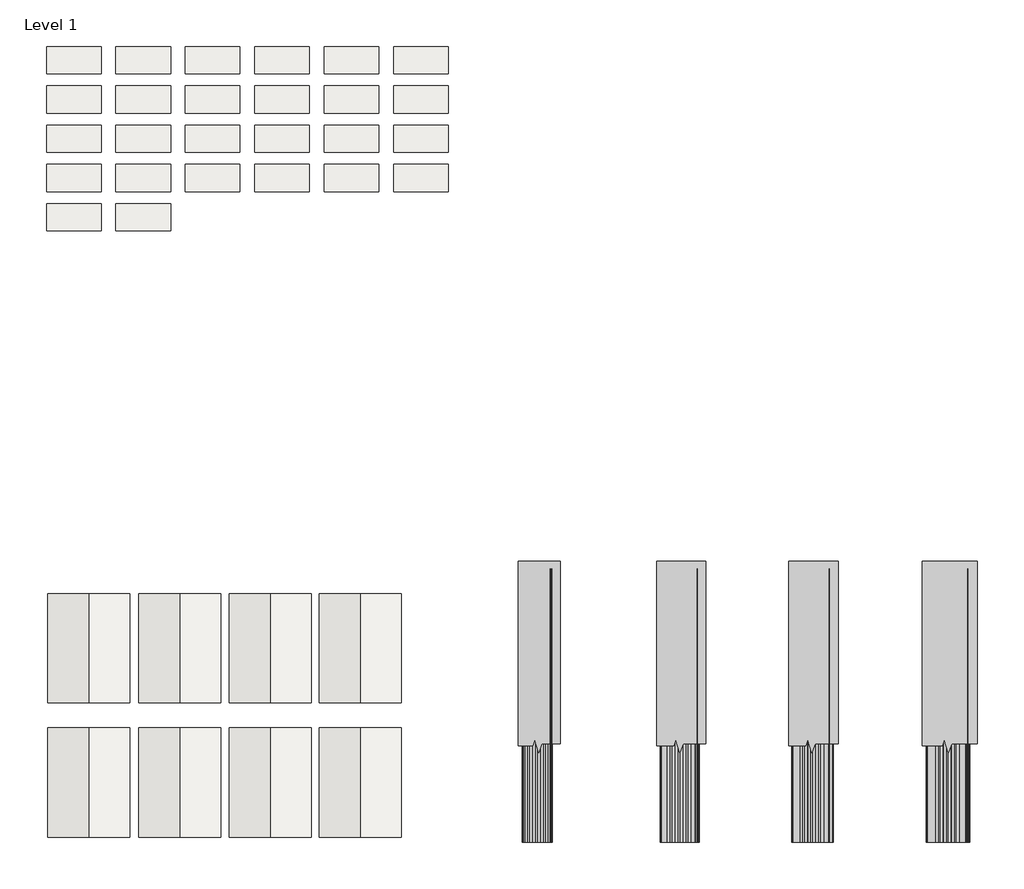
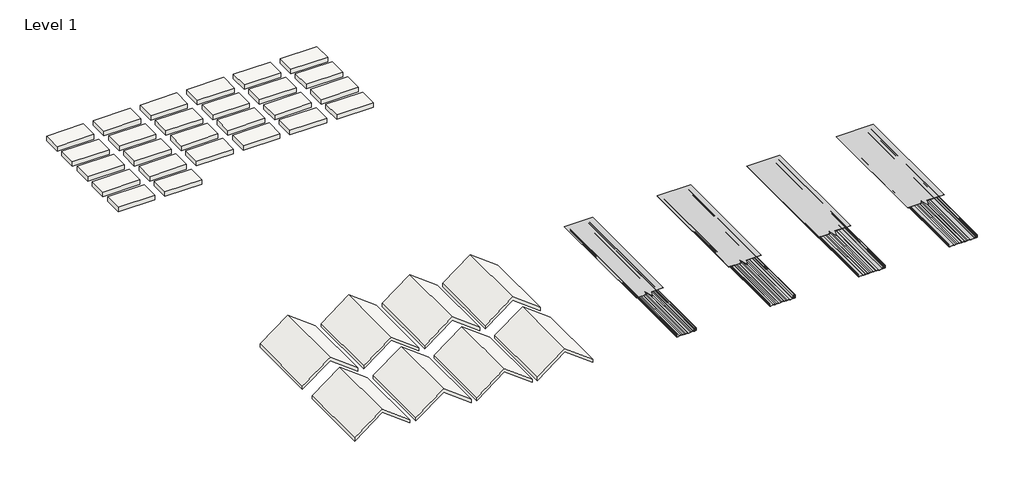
# One storey: 26 slabs, 8 proxies, 8 roofs.
"""IFC4 building model written with IfcOpenShell, lengths in millimetres."""

from ifc_helpers import new_model, si_unit, frame, origin, place, context, project, spatial, polyline, outline, extrude, transform, mapped, element, save
from components import proxy_332a0bac, proxy_bb0d2f3e, proxy_3b25000a, proxy_86f8ee29, section_mask_section_mask_8323a9d6, section_mask1_section_mask_918df037, section_mask2_section_mask_1289d720, section_mask3_section_mask_319a9473

model = new_model("IFC4")

# Units and contexts
model_context = context("Model", 3, world=origin())
ifc_project = project(units=[si_unit("LENGTHUNIT", "METRE", prefix="MILLI")], contexts=[model_context])

# Site, building, storey
site = spatial("IfcSite", under=ifc_project)
building = spatial("IfcBuilding", under=site)
storey = spatial("IfcBuildingStorey", under=building, Name="Level 1", Elevation=0.0)

# Proxies
placement = place(None, origin())
proxy_shape = proxy_332a0bac(model_context)
element("IfcBuildingElementProxy", 1, Name="Design_Span_hp_Roofing_Panel : 12\" Design Span hp - 22ga", ObjectType="Design_Span_hp_Roofing_Panel : 12\" Design Span hp - 22ga", at=placement, inside=storey, context=model_context, shape_type="MappedRepresentation", body=[
    mapped(proxy_shape, transform((524.6626704, 1669.9440449, 0.0), x_axis=(1.0, 0.0, 0.0), y_axis=(0.0, 1.0, 0.0), z_axis=(0.0, 0.0, 1.0))),
])
proxy_2_shape = proxy_bb0d2f3e(model_context)
element("IfcBuildingElementProxy", 2, Name="Design_Span_hp_Roofing_Panel : 16\" Design Span hp - 22ga", ObjectType="Design_Span_hp_Roofing_Panel : 16\" Design Span hp - 22ga", at=placement, inside=storey, context=model_context, shape_type="MappedRepresentation", body=[
    mapped(proxy_2_shape, transform((2115.0467811, 1669.9440449, 0.0), x_axis=(1.0, 0.0, 0.0), y_axis=(0.0, 1.0, 0.0), z_axis=(0.0, 0.0, 1.0))),
])
proxy_3_shape = proxy_3b25000a(model_context)
element("IfcBuildingElementProxy", 3, Name="Design_Span_hp_Roofing_Panel : 17\" Design Span hp - 22ga", ObjectType="Design_Span_hp_Roofing_Panel : 17\" Design Span hp - 22ga", at=placement, inside=storey, context=model_context, shape_type="MappedRepresentation", body=[
    mapped(proxy_3_shape, transform((3594.8418663, 1669.9440449, 0.0), x_axis=(1.0, 0.0, 0.0), y_axis=(0.0, 1.0, 0.0), z_axis=(0.0, 0.0, 1.0))),
])
proxy_4_shape = proxy_86f8ee29(model_context)
element("IfcBuildingElementProxy", 4, Name="Design_Span_hp_Roofing_Panel : 18\" Design Span hp - 22ga", ObjectType="Design_Span_hp_Roofing_Panel : 18\" Design Span hp - 22ga", at=placement, inside=storey, context=model_context, shape_type="MappedRepresentation", body=[
    mapped(proxy_4_shape, transform((5109.0259769, 1669.9440449, 0.0), x_axis=(1.0, 0.0, 0.0), y_axis=(0.0, 1.0, 0.0), z_axis=(0.0, 0.0, 1.0))),
])
section_mask_section_mask_shape = section_mask_section_mask_8323a9d6(model_context)
element("IfcBuildingElementProxy", 5, Name="Section Mask : Section Mask", ObjectType="Section Mask : Section Mask", at=placement, inside=storey, context=model_context, shape_type="MappedRepresentation", body=[
    mapped(section_mask_section_mask_shape, transform((0.0, 0.0, 0.0), x_axis=(1.0, 0.0, 0.0), y_axis=(0.0, 1.0, 0.0), z_axis=(0.0, 0.0, 1.0))),
])
section_mask1_section_mask_shape = section_mask1_section_mask_918df037(model_context)
element("IfcBuildingElementProxy", 6, Name="Section Mask1 : Section Mask", ObjectType="Section Mask1 : Section Mask", at=placement, inside=storey, context=model_context, shape_type="MappedRepresentation", body=[
    mapped(section_mask1_section_mask_shape, transform((1574.8, 0.0, 0.0), x_axis=(1.0, 0.0, 0.0), y_axis=(0.0, 1.0, 0.0), z_axis=(0.0, 0.0, 1.0))),
])
section_mask2_section_mask_shape = section_mask2_section_mask_1289d720(model_context)
element("IfcBuildingElementProxy", 7, Name="Section Mask2 : Section Mask", ObjectType="Section Mask2 : Section Mask", at=placement, inside=storey, context=model_context, shape_type="MappedRepresentation", body=[
    mapped(section_mask2_section_mask_shape, transform((3048.0, 0.0, 0.0), x_axis=(1.0, 0.0, 0.0), y_axis=(0.0, 1.0, 0.0), z_axis=(0.0, 0.0, 1.0))),
])
section_mask3_section_mask_shape = section_mask3_section_mask_319a9473(model_context)
element("IfcBuildingElementProxy", 8, Name="Section Mask3 : Section Mask", ObjectType="Section Mask3 : Section Mask", at=placement, inside=storey, context=model_context, shape_type="MappedRepresentation", body=[
    mapped(section_mask3_section_mask_shape, transform((4572.0, 0.0, 0.0), x_axis=(1.0, 0.0, 0.0), y_axis=(0.0, 1.0, 0.0), z_axis=(0.0, 0.0, 1.0))),
])

# Roofs
element("IfcRoof", 9, ObjectType="12\" Design Span wBatten Cap - 22ga", at=placement, inside=storey, context=model_context, shape_type="SweptSolid", body=[
    extrude(outline(polyline([(55.5625, -4018.8587959), (398.4625, -4476.0587959), (55.5625, -4933.2587959), (0.0, -4933.2587959), (342.9, -4476.0587959), (0.0, -4018.8587959), (55.5625, -4018.8587959)])), frame((0.0, -1322.9012025, 0.0), z_axis=(0.0, 1.0, 0.0), x_axis=(0.0, 0.0, 1.0)), (0.0, 0.0, 1.0), 1219.2),
])
element("IfcRoof", 10, ObjectType="16\" Design Span wBatten Cap - 22ga", at=placement, inside=storey, context=model_context, shape_type="SweptSolid", body=[
    extrude(outline(polyline([(55.5625, -3002.8587959), (398.4625, -3460.0587959), (55.5625, -3917.2587959), (0.0, -3917.2587959), (342.9, -3460.0587959), (0.0, -3002.8587959), (55.5625, -3002.8587959)])), frame((0.0, -1322.9012025, 0.0), z_axis=(0.0, 1.0, 0.0), x_axis=(0.0, 0.0, 1.0)), (0.0, 0.0, 1.0), 1219.2),
])
element("IfcRoof", 11, ObjectType="17\" Design Span wBatten Cap - 22ga", at=placement, inside=storey, context=model_context, shape_type="SweptSolid", body=[
    extrude(outline(polyline([(55.5625, -1993.2087959), (398.4625, -2450.4087959), (55.5625, -2907.6087959), (0.0, -2907.6087959), (342.9, -2450.4087959), (0.0, -1993.2087959), (55.5625, -1993.2087959)])), frame((0.0, -1322.9012025, 0.0), z_axis=(0.0, 1.0, 0.0), x_axis=(0.0, 0.0, 1.0)), (0.0, 0.0, 1.0), 1219.2),
])
element("IfcRoof", 12, ObjectType="18\" Design Span wBatten Cap - 22ga", at=placement, inside=storey, context=model_context, shape_type="SweptSolid", body=[
    extrude(outline(polyline([(55.5625, -989.9087959), (398.4625, -1447.1087959), (55.5625, -1904.3087959), (0.0, -1904.3087959), (342.9, -1447.1087959), (0.0, -989.9087959), (55.5625, -989.9087959)])), frame((0.0, -1322.9012025, 0.0), z_axis=(0.0, 1.0, 0.0), x_axis=(0.0, 0.0, 1.0)), (0.0, 0.0, 1.0), 1219.2),
])
element("IfcRoof", 13, ObjectType="12\" Design Span hp - 22ga", at=placement, inside=storey, context=model_context, shape_type="SweptSolid", body=[
    extrude(outline(polyline([(55.5625, -4018.8587959), (398.4625, -4476.0587959), (55.5625, -4933.2587959), (0.0, -4933.2587959), (342.9, -4476.0587959), (0.0, -4018.8587959), (55.5625, -4018.8587959)])), frame((0.0, 175.6987975, 0.0), z_axis=(0.0, 1.0, 0.0), x_axis=(0.0, 0.0, 1.0)), (0.0, 0.0, 1.0), 1219.2),
])
element("IfcRoof", 14, ObjectType="16\" Design Span hp - 22ga", at=placement, inside=storey, context=model_context, shape_type="SweptSolid", body=[
    extrude(outline(polyline([(55.5625, -3002.8587959), (398.4625, -3460.0587959), (55.5625, -3917.2587959), (0.0, -3917.2587959), (342.9, -3460.0587959), (0.0, -3002.8587959), (55.5625, -3002.8587959)])), frame((0.0, 175.6987975, 0.0), z_axis=(0.0, 1.0, 0.0), x_axis=(0.0, 0.0, 1.0)), (0.0, 0.0, 1.0), 1219.2),
])
element("IfcRoof", 15, ObjectType="17\" Design Span hp - 22ga", at=placement, inside=storey, context=model_context, shape_type="SweptSolid", body=[
    extrude(outline(polyline([(55.5625, -1993.2087959), (398.4625, -2450.4087959), (55.5625, -2907.6087959), (0.0, -2907.6087959), (342.9, -2450.4087959), (0.0, -1993.2087959), (55.5625, -1993.2087959)])), frame((0.0, 175.6987975, 0.0), z_axis=(0.0, 1.0, 0.0), x_axis=(0.0, 0.0, 1.0)), (0.0, 0.0, 1.0), 1219.2),
])
element("IfcRoof", 16, ObjectType="18\" Design Span hp - 22ga", at=placement, inside=storey, context=model_context, shape_type="SweptSolid", body=[
    extrude(outline(polyline([(55.5625, -989.9087959), (398.4625, -1447.1087959), (55.5625, -1904.3087959), (0.0, -1904.3087959), (342.9, -1447.1087959), (0.0, -989.9087959), (55.5625, -989.9087959)])), frame((0.0, 175.6987975, 0.0), z_axis=(0.0, 1.0, 0.0), x_axis=(0.0, 0.0, 1.0)), (0.0, 0.0, 1.0), 1219.2),
])

# Slabs
element("IfcSlab", 17, ObjectType="AEP Panel Sample Material", at=placement, inside=storey, context=model_context, shape_type="SweptSolid", body=[
    extrude(outline(polyline([(-4946.515334, 7196.0746889), (-4946.515334, 7500.8746889), (-4336.915334, 7500.8746889), (-4336.915334, 7196.0746889), (-4946.515334, 7196.0746889)])), frame((0.0, 0.0, -79.375), z_axis=(0.0, 0.0, 1.0), x_axis=(1.0, 0.0, 0.0)), (0.0, 0.0, 1.0), 79.375),
])
element("IfcSlab", 18, ObjectType="AEP Panel Sample Material", at=placement, inside=storey, context=model_context, shape_type="SweptSolid", body=[
    extrude(outline(polyline([(-4946.515334, 6757.9246889), (-4946.515334, 7062.7246889), (-4336.915334, 7062.7246889), (-4336.915334, 6757.9246889), (-4946.515334, 6757.9246889)])), frame((0.0, 0.0, -79.375), z_axis=(0.0, 0.0, 1.0), x_axis=(1.0, 0.0, 0.0)), (0.0, 0.0, 1.0), 79.375),
])
element("IfcSlab", 19, ObjectType="AEP Panel Sample Material", at=placement, inside=storey, context=model_context, shape_type="SweptSolid", body=[
    extrude(outline(polyline([(-4946.515334, 6319.7746889), (-4946.515334, 6624.5746889), (-4336.915334, 6624.5746889), (-4336.915334, 6319.7746889), (-4946.515334, 6319.7746889)])), frame((0.0, 0.0, -79.375), z_axis=(0.0, 0.0, 1.0), x_axis=(1.0, 0.0, 0.0)), (0.0, 0.0, 1.0), 79.375),
])
element("IfcSlab", 20, ObjectType="AEP Panel Sample Material", at=placement, inside=storey, context=model_context, shape_type="SweptSolid", body=[
    extrude(outline(polyline([(-4946.515334, 5881.6246889), (-4946.515334, 6186.4246889), (-4336.915334, 6186.4246889), (-4336.915334, 5881.6246889), (-4946.515334, 5881.6246889)])), frame((0.0, 0.0, -79.375), z_axis=(0.0, 0.0, 1.0), x_axis=(1.0, 0.0, 0.0)), (0.0, 0.0, 1.0), 79.375),
])
element("IfcSlab", 21, ObjectType="AEP Panel Sample Material", at=placement, inside=storey, context=model_context, shape_type="SweptSolid", body=[
    extrude(outline(polyline([(-4946.515334, 5443.4746889), (-4946.515334, 5748.2746889), (-4336.915334, 5748.2746889), (-4336.915334, 5443.4746889), (-4946.515334, 5443.4746889)])), frame((0.0, 0.0, -79.375), z_axis=(0.0, 0.0, 1.0), x_axis=(1.0, 0.0, 0.0)), (0.0, 0.0, 1.0), 79.375),
])
element("IfcSlab", 22, ObjectType="AEP Panel Sample Material", at=placement, inside=storey, context=model_context, shape_type="SweptSolid", body=[
    extrude(outline(polyline([(-4171.815334, 7196.0746889), (-4171.815334, 7500.8746889), (-3562.215334, 7500.8746889), (-3562.215334, 7196.0746889), (-4171.815334, 7196.0746889)])), frame((0.0, 0.0, -79.375), z_axis=(0.0, 0.0, 1.0), x_axis=(1.0, 0.0, 0.0)), (0.0, 0.0, 1.0), 79.375),
])
element("IfcSlab", 23, ObjectType="AEP Panel Sample Material", at=placement, inside=storey, context=model_context, shape_type="SweptSolid", body=[
    extrude(outline(polyline([(-4171.815334, 6757.9246889), (-4171.815334, 7062.7246889), (-3562.215334, 7062.7246889), (-3562.215334, 6757.9246889), (-4171.815334, 6757.9246889)])), frame((0.0, 0.0, -79.375), z_axis=(0.0, 0.0, 1.0), x_axis=(1.0, 0.0, 0.0)), (0.0, 0.0, 1.0), 79.375),
])
element("IfcSlab", 24, ObjectType="AEP Panel Sample Material", at=placement, inside=storey, context=model_context, shape_type="SweptSolid", body=[
    extrude(outline(polyline([(-4171.815334, 6319.7746889), (-4171.815334, 6624.5746889), (-3562.215334, 6624.5746889), (-3562.215334, 6319.7746889), (-4171.815334, 6319.7746889)])), frame((0.0, 0.0, -79.375), z_axis=(0.0, 0.0, 1.0), x_axis=(1.0, 0.0, 0.0)), (0.0, 0.0, 1.0), 79.375),
])
element("IfcSlab", 25, ObjectType="AEP Panel Sample Material", at=placement, inside=storey, context=model_context, shape_type="SweptSolid", body=[
    extrude(outline(polyline([(-4171.815334, 5881.6246889), (-4171.815334, 6186.4246889), (-3562.215334, 6186.4246889), (-3562.215334, 5881.6246889), (-4171.815334, 5881.6246889)])), frame((0.0, 0.0, -79.375), z_axis=(0.0, 0.0, 1.0), x_axis=(1.0, 0.0, 0.0)), (0.0, 0.0, 1.0), 79.375),
])
element("IfcSlab", 26, ObjectType="AEP Panel Sample Material", at=placement, inside=storey, context=model_context, shape_type="SweptSolid", body=[
    extrude(outline(polyline([(-4171.815334, 5443.4746889), (-4171.815334, 5748.2746889), (-3562.215334, 5748.2746889), (-3562.215334, 5443.4746889), (-4171.815334, 5443.4746889)])), frame((0.0, 0.0, -79.375), z_axis=(0.0, 0.0, 1.0), x_axis=(1.0, 0.0, 0.0)), (0.0, 0.0, 1.0), 79.375),
])
element("IfcSlab", 27, ObjectType="AEP Panel Sample Material", at=placement, inside=storey, context=model_context, shape_type="SweptSolid", body=[
    extrude(outline(polyline([(-3397.115334, 7196.0746889), (-3397.115334, 7500.8746889), (-2787.515334, 7500.8746889), (-2787.515334, 7196.0746889), (-3397.115334, 7196.0746889)])), frame((0.0, 0.0, -79.375), z_axis=(0.0, 0.0, 1.0), x_axis=(1.0, 0.0, 0.0)), (0.0, 0.0, 1.0), 79.375),
])
element("IfcSlab", 28, ObjectType="AEP Panel Sample Material", at=placement, inside=storey, context=model_context, shape_type="SweptSolid", body=[
    extrude(outline(polyline([(-3397.115334, 6757.9246889), (-3397.115334, 7062.7246889), (-2787.515334, 7062.7246889), (-2787.515334, 6757.9246889), (-3397.115334, 6757.9246889)])), frame((0.0, 0.0, -79.375), z_axis=(0.0, 0.0, 1.0), x_axis=(1.0, 0.0, 0.0)), (0.0, 0.0, 1.0), 79.375),
])
element("IfcSlab", 29, ObjectType="AEP Panel Sample Material", at=placement, inside=storey, context=model_context, shape_type="SweptSolid", body=[
    extrude(outline(polyline([(-3397.115334, 6319.7746889), (-3397.115334, 6624.5746889), (-2787.515334, 6624.5746889), (-2787.515334, 6319.7746889), (-3397.115334, 6319.7746889)])), frame((0.0, 0.0, -79.375), z_axis=(0.0, 0.0, 1.0), x_axis=(1.0, 0.0, 0.0)), (0.0, 0.0, 1.0), 79.375),
])
element("IfcSlab", 30, ObjectType="AEP Panel Sample Material", at=placement, inside=storey, context=model_context, shape_type="SweptSolid", body=[
    extrude(outline(polyline([(-3397.115334, 5881.6246889), (-3397.115334, 6186.4246889), (-2787.515334, 6186.4246889), (-2787.515334, 5881.6246889), (-3397.115334, 5881.6246889)])), frame((0.0, 0.0, -79.375), z_axis=(0.0, 0.0, 1.0), x_axis=(1.0, 0.0, 0.0)), (0.0, 0.0, 1.0), 79.375),
])
element("IfcSlab", 31, ObjectType="AEP Panel Sample Material", at=placement, inside=storey, context=model_context, shape_type="SweptSolid", body=[
    extrude(outline(polyline([(-2622.415334, 7196.0746889), (-2622.415334, 7500.8746889), (-2012.815334, 7500.8746889), (-2012.815334, 7196.0746889), (-2622.415334, 7196.0746889)])), frame((0.0, 0.0, -79.375), z_axis=(0.0, 0.0, 1.0), x_axis=(1.0, 0.0, 0.0)), (0.0, 0.0, 1.0), 79.375),
])
element("IfcSlab", 32, ObjectType="AEP Panel Sample Material", at=placement, inside=storey, context=model_context, shape_type="SweptSolid", body=[
    extrude(outline(polyline([(-2622.415334, 6757.9246889), (-2622.415334, 7062.7246889), (-2012.815334, 7062.7246889), (-2012.815334, 6757.9246889), (-2622.415334, 6757.9246889)])), frame((0.0, 0.0, -79.375), z_axis=(0.0, 0.0, 1.0), x_axis=(1.0, 0.0, 0.0)), (0.0, 0.0, 1.0), 79.375),
])
element("IfcSlab", 33, ObjectType="AEP Panel Sample Material", at=placement, inside=storey, context=model_context, shape_type="SweptSolid", body=[
    extrude(outline(polyline([(-2622.415334, 6319.7746889), (-2622.415334, 6624.5746889), (-2012.815334, 6624.5746889), (-2012.815334, 6319.7746889), (-2622.415334, 6319.7746889)])), frame((0.0, 0.0, -79.375), z_axis=(0.0, 0.0, 1.0), x_axis=(1.0, 0.0, 0.0)), (0.0, 0.0, 1.0), 79.375),
])
element("IfcSlab", 34, ObjectType="AEP Panel Sample Material", at=placement, inside=storey, context=model_context, shape_type="SweptSolid", body=[
    extrude(outline(polyline([(-2622.415334, 5881.6246889), (-2622.415334, 6186.4246889), (-2012.815334, 6186.4246889), (-2012.815334, 5881.6246889), (-2622.415334, 5881.6246889)])), frame((0.0, 0.0, -79.375), z_axis=(0.0, 0.0, 1.0), x_axis=(1.0, 0.0, 0.0)), (0.0, 0.0, 1.0), 79.375),
])
element("IfcSlab", 35, ObjectType="AEP Panel Sample Material", at=placement, inside=storey, context=model_context, shape_type="SweptSolid", body=[
    extrude(outline(polyline([(-1847.715334, 7196.0746889), (-1847.715334, 7500.8746889), (-1238.115334, 7500.8746889), (-1238.115334, 7196.0746889), (-1847.715334, 7196.0746889)])), frame((0.0, 0.0, -79.375), z_axis=(0.0, 0.0, 1.0), x_axis=(1.0, 0.0, 0.0)), (0.0, 0.0, 1.0), 79.375),
])
element("IfcSlab", 36, ObjectType="AEP Panel Sample Material", at=placement, inside=storey, context=model_context, shape_type="SweptSolid", body=[
    extrude(outline(polyline([(-1847.715334, 6757.9246889), (-1847.715334, 7062.7246889), (-1238.115334, 7062.7246889), (-1238.115334, 6757.9246889), (-1847.715334, 6757.9246889)])), frame((0.0, 0.0, -79.375), z_axis=(0.0, 0.0, 1.0), x_axis=(1.0, 0.0, 0.0)), (0.0, 0.0, 1.0), 79.375),
])
element("IfcSlab", 37, ObjectType="AEP Panel Sample Material", at=placement, inside=storey, context=model_context, shape_type="SweptSolid", body=[
    extrude(outline(polyline([(-1847.715334, 6319.7746889), (-1847.715334, 6624.5746889), (-1238.115334, 6624.5746889), (-1238.115334, 6319.7746889), (-1847.715334, 6319.7746889)])), frame((0.0, 0.0, -79.375), z_axis=(0.0, 0.0, 1.0), x_axis=(1.0, 0.0, 0.0)), (0.0, 0.0, 1.0), 79.375),
])
element("IfcSlab", 38, ObjectType="AEP Panel Sample Material", at=placement, inside=storey, context=model_context, shape_type="SweptSolid", body=[
    extrude(outline(polyline([(-1847.715334, 5881.6246889), (-1847.715334, 6186.4246889), (-1238.115334, 6186.4246889), (-1238.115334, 5881.6246889), (-1847.715334, 5881.6246889)])), frame((0.0, 0.0, -79.375), z_axis=(0.0, 0.0, 1.0), x_axis=(1.0, 0.0, 0.0)), (0.0, 0.0, 1.0), 79.375),
])
element("IfcSlab", 39, ObjectType="AEP Panel Sample Material", at=placement, inside=storey, context=model_context, shape_type="SweptSolid", body=[
    extrude(outline(polyline([(-1073.015334, 7196.0746889), (-1073.015334, 7500.8746889), (-463.415334, 7500.8746889), (-463.415334, 7196.0746889), (-1073.015334, 7196.0746889)])), frame((0.0, 0.0, -79.375), z_axis=(0.0, 0.0, 1.0), x_axis=(1.0, 0.0, 0.0)), (0.0, 0.0, 1.0), 79.375),
])
element("IfcSlab", 40, ObjectType="AEP Panel Sample Material", at=placement, inside=storey, context=model_context, shape_type="SweptSolid", body=[
    extrude(outline(polyline([(-1073.015334, 6757.9246889), (-1073.015334, 7062.7246889), (-463.415334, 7062.7246889), (-463.415334, 6757.9246889), (-1073.015334, 6757.9246889)])), frame((0.0, 0.0, -79.375), z_axis=(0.0, 0.0, 1.0), x_axis=(1.0, 0.0, 0.0)), (0.0, 0.0, 1.0), 79.375),
])
element("IfcSlab", 41, ObjectType="AEP Panel Sample Material", at=placement, inside=storey, context=model_context, shape_type="SweptSolid", body=[
    extrude(outline(polyline([(-1073.015334, 6319.7746889), (-1073.015334, 6624.5746889), (-463.415334, 6624.5746889), (-463.415334, 6319.7746889), (-1073.015334, 6319.7746889)])), frame((0.0, 0.0, -79.375), z_axis=(0.0, 0.0, 1.0), x_axis=(1.0, 0.0, 0.0)), (0.0, 0.0, 1.0), 79.375),
])
element("IfcSlab", 42, ObjectType="AEP Panel Sample Material", at=placement, inside=storey, context=model_context, shape_type="SweptSolid", body=[
    extrude(outline(polyline([(-1073.015334, 5881.6246889), (-1073.015334, 6186.4246889), (-463.415334, 6186.4246889), (-463.415334, 5881.6246889), (-1073.015334, 5881.6246889)])), frame((0.0, 0.0, -79.375), z_axis=(0.0, 0.0, 1.0), x_axis=(1.0, 0.0, 0.0)), (0.0, 0.0, 1.0), 79.375),
])

save(model, "model.ifc")
